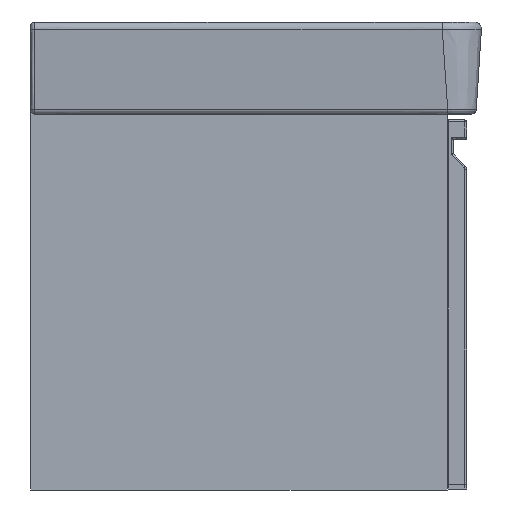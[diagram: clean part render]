
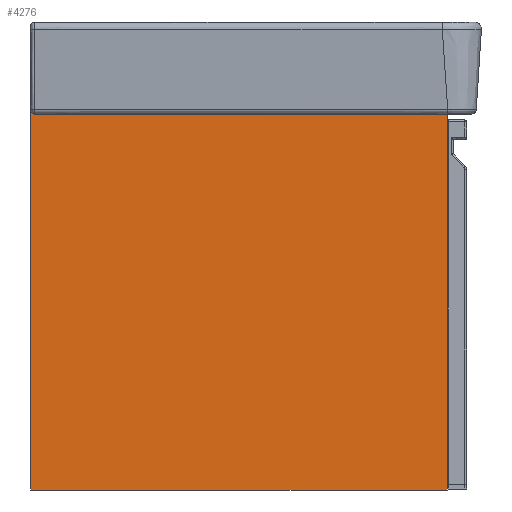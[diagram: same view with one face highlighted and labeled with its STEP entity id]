
A CAD part, left-side view. The second image highlights one B-rep face of the part: STEP entity #4276.
In plain terms, the highlighted planar face has unit normal (-1, 0, 0).
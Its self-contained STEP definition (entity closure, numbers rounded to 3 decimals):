
#4276=ADVANCED_FACE('',(#6700),#47403,.T.);
#6700=FACE_OUTER_BOUND('',#9256,.T.);
#9256=EDGE_LOOP('',(#16273,#16274,#16275,#16276));
#16273=ORIENTED_EDGE('',*,*,#26303,.F.);
#16274=ORIENTED_EDGE('',*,*,#26307,.F.);
#16275=ORIENTED_EDGE('',*,*,#26310,.T.);
#16276=ORIENTED_EDGE('',*,*,#26311,.T.);
#26303=EDGE_CURVE('',#41643,#41640,#33298,.T.);
#26307=EDGE_CURVE('',#41646,#41643,#33302,.T.);
#26310=EDGE_CURVE('',#41646,#41648,#33305,.T.);
#26311=EDGE_CURVE('',#41648,#41640,#33306,.T.);
#33298=B_SPLINE_CURVE_WITH_KNOTS('',1,(#70467,#70468),.UNSPECIFIED.,.F.,
 .F.,(2,2),(0.,430.),.UNSPECIFIED.);
#33302=B_SPLINE_CURVE_WITH_KNOTS('',1,(#70475,#70476),.UNSPECIFIED.,.F.,
 .F.,(2,2),(-390.,0.),.UNSPECIFIED.);
#33305=B_SPLINE_CURVE_WITH_KNOTS('',1,(#70481,#70482),.UNSPECIFIED.,.F.,
 .F.,(2,2),(-430.,0.),.UNSPECIFIED.);
#33306=B_SPLINE_CURVE_WITH_KNOTS('',1,(#70483,#70484),.UNSPECIFIED.,.F.,
 .F.,(2,2),(0.,390.),.UNSPECIFIED.);
#41640=VERTEX_POINT('',#70451);
#41643=VERTEX_POINT('',#70454);
#41646=VERTEX_POINT('',#70457);
#41648=VERTEX_POINT('',#70459);
#47403=PLANE('',#50553);
#50553=AXIS2_PLACEMENT_3D('',#70447,#52062,$);
#52062=DIRECTION('',(-1.,0.,0.));
#70447=CARTESIAN_POINT('',(-7790.326,-10360.697,-1904.411));
#70451=CARTESIAN_POINT('',(-7790.326,-10833.817,-1475.291));
#70454=CARTESIAN_POINT('',(-7790.326,-10403.817,-1475.291));
#70457=CARTESIAN_POINT('',(-7790.326,-10403.817,-1865.291));
#70459=CARTESIAN_POINT('',(-7790.326,-10833.817,-1865.291));
#70467=CARTESIAN_POINT('',(-7790.326,-10403.817,-1475.291));
#70468=CARTESIAN_POINT('',(-7790.326,-10833.817,-1475.291));
#70475=CARTESIAN_POINT('',(-7790.326,-10403.817,-1865.291));
#70476=CARTESIAN_POINT('',(-7790.326,-10403.817,-1475.291));
#70481=CARTESIAN_POINT('',(-7790.326,-10403.817,-1865.291));
#70482=CARTESIAN_POINT('',(-7790.326,-10833.817,-1865.291));
#70483=CARTESIAN_POINT('',(-7790.326,-10833.817,-1865.291));
#70484=CARTESIAN_POINT('',(-7790.326,-10833.817,-1475.291));
